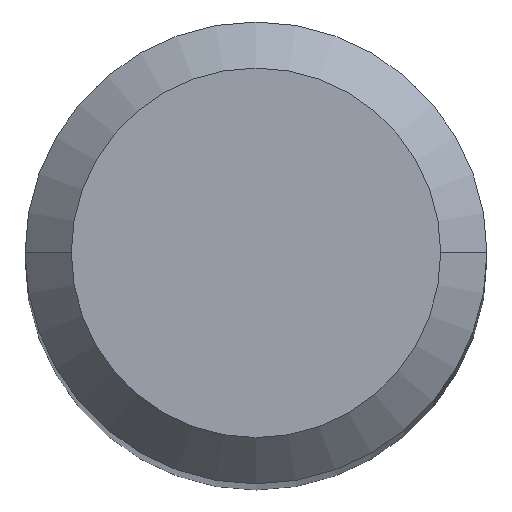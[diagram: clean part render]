
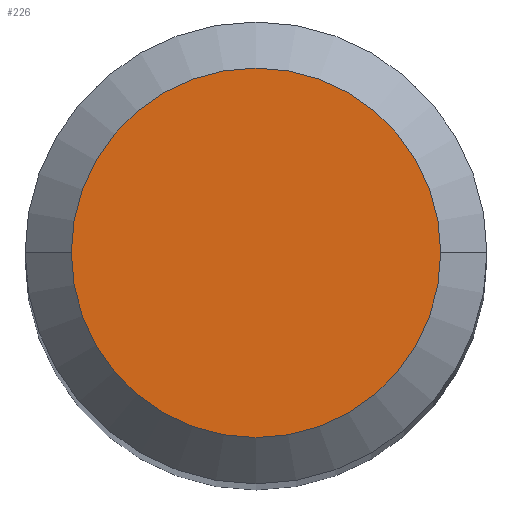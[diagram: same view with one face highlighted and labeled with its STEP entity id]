
A CAD part, top view. The second image highlights one B-rep face of the part: STEP entity #226.
In plain terms, the highlighted planar face has unit normal (0, 0, 1).
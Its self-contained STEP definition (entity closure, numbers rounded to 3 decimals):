
#7 = CARTESIAN_POINT ( 'NONE',  ( 0., 0., 0. ) ) ;
#17 = VERTEX_POINT ( 'NONE', #391 ) ;
#19 = EDGE_CURVE ( 'NONE', #17, #123, #126, .T. ) ;
#21 = DIRECTION ( 'NONE',  ( 0., 0., -1. ) ) ;
#55 = ORIENTED_EDGE ( 'NONE', *, *, #19, .F. ) ;
#105 = CARTESIAN_POINT ( 'NONE',  ( 0., 3.2, 0. ) ) ;
#123 = VERTEX_POINT ( 'NONE', #389 ) ;
#126 = CIRCLE ( 'NONE', #371, 3.2 ) ;
#212 = EDGE_LOOP ( 'NONE', ( #55, #313 ) ) ;
#226 = ADVANCED_FACE ( 'NONE', ( #264 ), #290, .T. ) ;
#230 = DIRECTION ( 'NONE',  ( 1., 0., 0. ) ) ;
#241 = DIRECTION ( 'NONE',  ( 0., 0., -1. ) ) ;
#243 = AXIS2_PLACEMENT_3D ( 'NONE', #105, #351, #230 ) ;
#264 = FACE_OUTER_BOUND ( 'NONE', #212, .T. ) ;
#267 = DIRECTION ( 'NONE',  ( -1., 0., 0. ) ) ;
#290 = PLANE ( 'NONE',  #243 ) ;
#313 = ORIENTED_EDGE ( 'NONE', *, *, #392, .F. ) ;
#344 = DIRECTION ( 'NONE',  ( -1., 0., 0. ) ) ;
#349 = CARTESIAN_POINT ( 'NONE',  ( 0., 0., 0. ) ) ;
#351 = DIRECTION ( 'NONE',  ( 0., 0., 1. ) ) ;
#352 = AXIS2_PLACEMENT_3D ( 'NONE', #7, #241, #267 ) ;
#371 = AXIS2_PLACEMENT_3D ( 'NONE', #349, #21, #344 ) ;
#389 = CARTESIAN_POINT ( 'NONE',  ( 3.2, 0., 0. ) ) ;
#390 = CIRCLE ( 'NONE', #352, 3.2 ) ;
#391 = CARTESIAN_POINT ( 'NONE',  ( -3.2, 0., 0. ) ) ;
#392 = EDGE_CURVE ( 'NONE', #123, #17, #390, .T. ) ;
